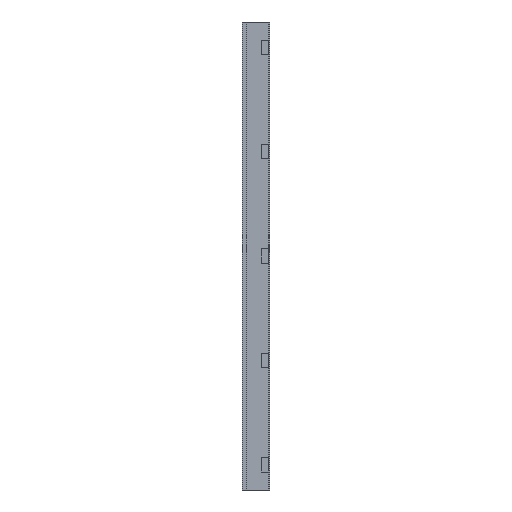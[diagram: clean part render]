
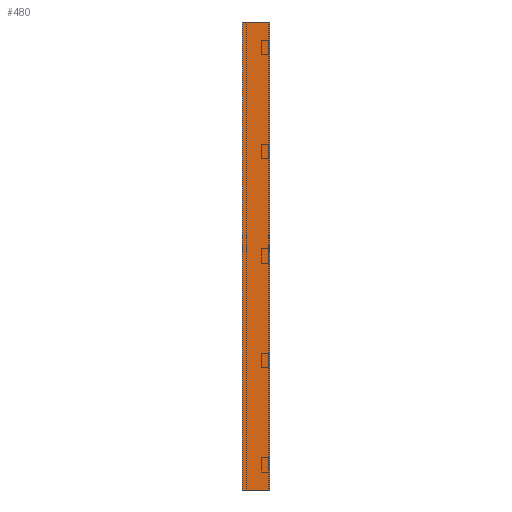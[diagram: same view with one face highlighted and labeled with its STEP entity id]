
A CAD part, left-side view. The second image highlights one B-rep face of the part: STEP entity #480.
In plain terms, the highlighted planar face has unit normal (-1, 0, 0).
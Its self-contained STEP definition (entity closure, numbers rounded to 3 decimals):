
#2 = DIRECTION ( 'NONE',  ( 0., -1., 0. ) ) ;
#32 = FACE_OUTER_BOUND ( 'NONE', #1637, .T. ) ;
#43 = CARTESIAN_POINT ( 'NONE',  ( 0., 0., -1300. ) ) ;
#63 = LINE ( 'NONE', #189, #371 ) ;
#101 = CARTESIAN_POINT ( 'NONE',  ( 0., 75., 0. ) ) ;
#107 = ORIENTED_EDGE ( 'NONE', *, *, #1235, .F. ) ;
#139 = AXIS2_PLACEMENT_3D ( 'NONE', #579, #1318, #302 ) ;
#189 = CARTESIAN_POINT ( 'NONE',  ( 0., 0., 0. ) ) ;
#234 = CARTESIAN_POINT ( 'NONE',  ( 0., 75., -1300. ) ) ;
#275 = LINE ( 'NONE', #43, #410 ) ;
#293 = VERTEX_POINT ( 'NONE', #234 ) ;
#295 = VERTEX_POINT ( 'NONE', #1317 ) ;
#302 = DIRECTION ( 'NONE',  ( 0., 0., 1. ) ) ;
#371 = VECTOR ( 'NONE', #716, 1000. ) ;
#405 = EDGE_CURVE ( 'NONE', #293, #295, #1558, .T. ) ;
#410 = VECTOR ( 'NONE', #1364, 1000. ) ;
#480 = ADVANCED_FACE ( 'NONE', ( #32 ), #823, .T. ) ;
#579 = CARTESIAN_POINT ( 'NONE',  ( 0., 0., -1300. ) ) ;
#584 = LINE ( 'NONE', #1595, #718 ) ;
#587 = ORIENTED_EDGE ( 'NONE', *, *, #405, .T. ) ;
#596 = VECTOR ( 'NONE', #2, 1000. ) ;
#716 = DIRECTION ( 'NONE',  ( 0., -1., 0. ) ) ;
#718 = VECTOR ( 'NONE', #834, 1000. ) ;
#823 = PLANE ( 'NONE',  #139 ) ;
#834 = DIRECTION ( 'NONE',  ( 0., 0., 1. ) ) ;
#839 = VERTEX_POINT ( 'NONE', #101 ) ;
#994 = ORIENTED_EDGE ( 'NONE', *, *, #1306, .T. ) ;
#1046 = ORIENTED_EDGE ( 'NONE', *, *, #1573, .F. ) ;
#1173 = CARTESIAN_POINT ( 'NONE',  ( 0., 0., -1300. ) ) ;
#1198 = VERTEX_POINT ( 'NONE', #1508 ) ;
#1235 = EDGE_CURVE ( 'NONE', #839, #1198, #63, .T. ) ;
#1306 = EDGE_CURVE ( 'NONE', #295, #1198, #275, .T. ) ;
#1317 = CARTESIAN_POINT ( 'NONE',  ( 0., 0., -1300. ) ) ;
#1318 = DIRECTION ( 'NONE',  ( -1., 0., 0. ) ) ;
#1364 = DIRECTION ( 'NONE',  ( 0., 0., 1. ) ) ;
#1508 = CARTESIAN_POINT ( 'NONE',  ( 0., 0., 0. ) ) ;
#1558 = LINE ( 'NONE', #1173, #596 ) ;
#1573 = EDGE_CURVE ( 'NONE', #293, #839, #584, .T. ) ;
#1595 = CARTESIAN_POINT ( 'NONE',  ( 0., 75., -1300. ) ) ;
#1637 = EDGE_LOOP ( 'NONE', ( #107, #1046, #587, #994 ) ) ;
